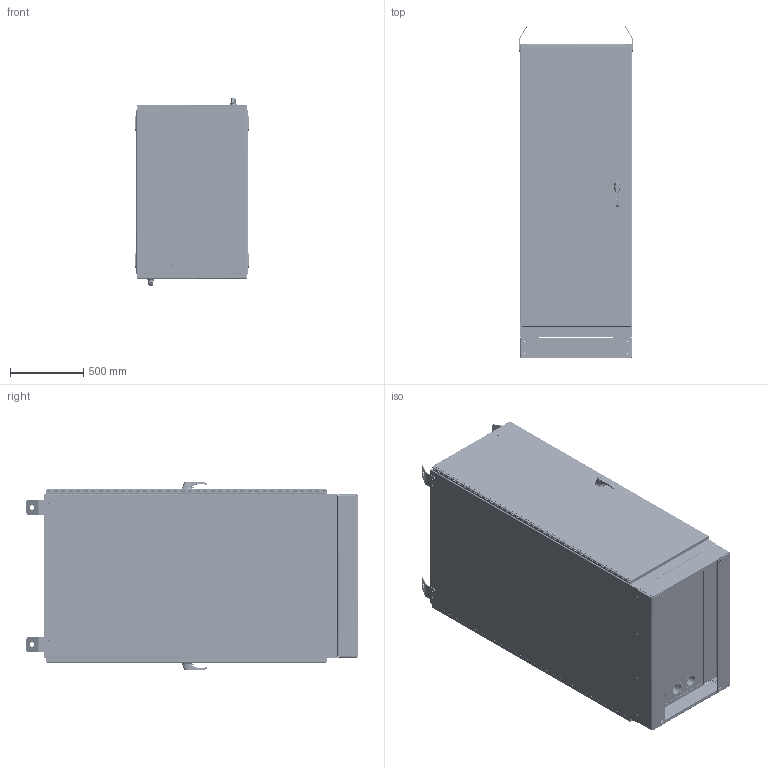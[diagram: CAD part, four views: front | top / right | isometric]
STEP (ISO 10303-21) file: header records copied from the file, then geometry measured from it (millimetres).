
FILE_DESCRIPTION (( 'STEP AP203' ), '1' );
FILE_NAME ('29197.step', '2014-12-19T06:47:58', ( 'admin' ), ( '' ), 'SwSTEP 2.0', 'SolidWorks 2010', '' );
FILE_SCHEMA (( 'CONFIG_CONTROL_DESIGN' ));
Products named in the file (69): 29197; 89117146_87920578; 89114594_89065891; 89114593_89065890; 89114568_89049941; 89114567_87920584; 89114591_89065889; 89114590_89065888; 99415470_99415470; 89114564; 87920592_87920592; 87920598_87920598; 87561705_87561705; 89114570_89049942; 89114569_87920586; 89114572_89050096; 89114571_89049943; 99404151_PEM CLS-0420-1 ---N; 87578925_87578925; 89049944_89049944; 89114585_89049937; 89114583_89049936; 89114584_87920576; 99404049_99404049; 27301003; 99405026_99405026; 22108007; 87560090; 26274019_26274019; 26273019_26273019; 30101003; 27115001; 22318002; 27115004; 99401452; 87560001_Closed; 89048719; 89048722; 89048720; 89048721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
Assembly tree (182 placements, depth 5):
  29197
    89114585_89049937  x2
      26123006
      26123007_26123007 
      89114583_89049936
        99405026_99405026  x2
        99404049_99404049  x4
        89114584_87920576
        27301003  x2
      99401452
      27115004
      87560001_Closed
        89048722
          89048720
          89048721
        89048717
        89048719
      87558344_Installed
      87402762
        87402760
        87402763
        87410157
      26274019_26274019
        27115001
        30101003  x2
        26273019_26273019
        22318002
      22108007
      87560090
      89114550_84 INCH FIP
    23418001
    89050557
      99404050_99404050  x24
      89049951
    87560141  x3
    89114574_87920588  x2
    89114576_87920594  x4
    89114577
    87929874_87929873  x2
    87578925_87578925  x2
    26118002_26118002  x2
    99401345  x2
    87544356_87544356  x2
    87920596  x4
    89117146_87920578
      89114572_89050096  x2
        99404151_PEM CLS-0420-1 ---N
        89114571_89049943
      89114591_89065889
        99415470_99415470  x13
        87561705_87561705  x4
        87920598_87920598  x2
        89114564  x3
        87920592_87920592  x2
        99404050_99404050  x2
        89114590_89065888
      89114570_89049942
        89114569_87920586
      89114594_89065891
        99415470_99415470  x13
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Bounding box: 771.55 x 2258.1 x 1283.63 mm (x, y, z)
Volume: 56876494.4 mm3; surface area: 30863412.8 mm2
Topology: 227 solids, 227 shells, 29466 faces, 82421 edges, 53910 vertices
Faces by surface type: plane 14540, cylinder 10795, cone 1874, bspline 1583, torus 560, sphere 114
Entity records: 354419 total; most frequent: CARTESIAN_POINT 113630, ORIENTED_EDGE 48808, DIRECTION 45577, EDGE_CURVE 24404, VERTEX_POINT 15944, AXIS2_PLACEMENT_3D 15631, LINE 14315, VECTOR 14315
